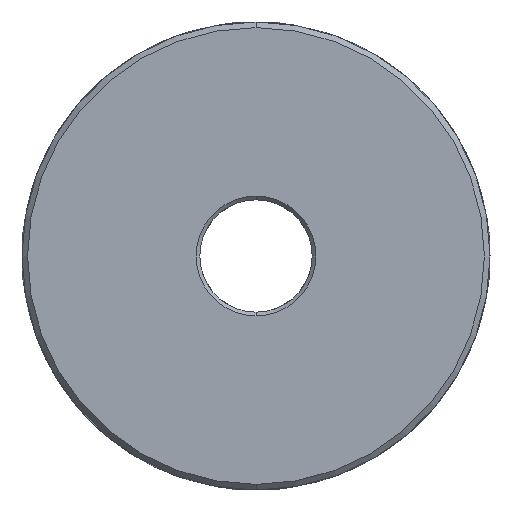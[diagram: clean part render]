
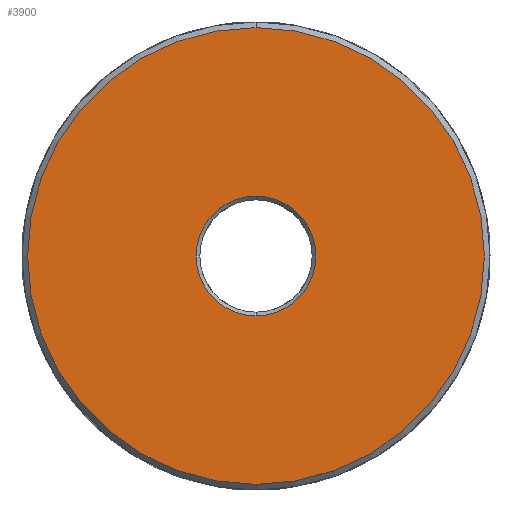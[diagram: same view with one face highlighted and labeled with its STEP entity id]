
A CAD part, front view. The second image highlights one B-rep face of the part: STEP entity #3900.
In plain terms, the highlighted planar face has unit normal (0, -1, 0).
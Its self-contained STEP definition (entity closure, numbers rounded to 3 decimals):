
#211 = CARTESIAN_POINT ( 'NONE',  ( 0., 0., -24.4 ) ) ;
#341 = EDGE_CURVE ( 'NONE', #1037, #658, #505, .T. ) ;
#427 = DIRECTION ( 'NONE',  ( 0., 1., 0. ) ) ;
#441 = DIRECTION ( 'NONE',  ( 0., 0., 1. ) ) ;
#505 = CIRCLE ( 'NONE', #4171, 6.4 ) ;
#544 = DIRECTION ( 'NONE',  ( 0., 1., 0. ) ) ;
#658 = VERTEX_POINT ( 'NONE', #831 ) ;
#831 = CARTESIAN_POINT ( 'NONE',  ( 0., 0., 6.4 ) ) ;
#1037 = VERTEX_POINT ( 'NONE', #5459 ) ;
#1040 = AXIS2_PLACEMENT_3D ( 'NONE', #7426, #1587, #441 ) ;
#1144 = DIRECTION ( 'NONE',  ( 0., 0., 1. ) ) ;
#1582 = DIRECTION ( 'NONE',  ( 0., 1., 0. ) ) ;
#1587 = DIRECTION ( 'NONE',  ( 0., -1., 0. ) ) ;
#1618 = CIRCLE ( 'NONE', #4556, 6.4 ) ;
#1812 = AXIS2_PLACEMENT_3D ( 'NONE', #5453, #4825, #3099 ) ;
#2177 = CARTESIAN_POINT ( 'NONE',  ( 0., 0., 0. ) ) ;
#2790 = ORIENTED_EDGE ( 'NONE', *, *, #6341, .T. ) ;
#2831 = CARTESIAN_POINT ( 'NONE',  ( -50., 0., 32.858 ) ) ;
#3099 = DIRECTION ( 'NONE',  ( 0., 0., 1. ) ) ;
#3481 = PLANE ( 'NONE',  #6324 ) ;
#3785 = EDGE_CURVE ( 'NONE', #5606, #5622, #5423, .T. ) ;
#3900 = ADVANCED_FACE ( 'NONE', ( #4161, #4344 ), #3481, .F. ) ;
#4161 = FACE_BOUND ( 'NONE', #4968, .T. ) ;
#4171 = AXIS2_PLACEMENT_3D ( 'NONE', #2177, #427, #6238 ) ;
#4344 = FACE_OUTER_BOUND ( 'NONE', #6713, .T. ) ;
#4556 = AXIS2_PLACEMENT_3D ( 'NONE', #7350, #1582, #6788 ) ;
#4825 = DIRECTION ( 'NONE',  ( 0., -1., 0. ) ) ;
#4968 = EDGE_LOOP ( 'NONE', ( #5048, #2790 ) ) ;
#5048 = ORIENTED_EDGE ( 'NONE', *, *, #341, .T. ) ;
#5254 = ORIENTED_EDGE ( 'NONE', *, *, #3785, .T. ) ;
#5291 = CIRCLE ( 'NONE', #1812, 24.4 ) ;
#5423 = CIRCLE ( 'NONE', #1040, 24.4 ) ;
#5453 = CARTESIAN_POINT ( 'NONE',  ( 0., 0., 0. ) ) ;
#5459 = CARTESIAN_POINT ( 'NONE',  ( 0., 0., -6.4 ) ) ;
#5606 = VERTEX_POINT ( 'NONE', #7120 ) ;
#5622 = VERTEX_POINT ( 'NONE', #211 ) ;
#6238 = DIRECTION ( 'NONE',  ( 0., 0., 1. ) ) ;
#6324 = AXIS2_PLACEMENT_3D ( 'NONE', #2831, #544, #1144 ) ;
#6341 = EDGE_CURVE ( 'NONE', #658, #1037, #1618, .T. ) ;
#6713 = EDGE_LOOP ( 'NONE', ( #5254, #7566 ) ) ;
#6788 = DIRECTION ( 'NONE',  ( 0., 0., 1. ) ) ;
#7120 = CARTESIAN_POINT ( 'NONE',  ( 0., 0., 24.4 ) ) ;
#7350 = CARTESIAN_POINT ( 'NONE',  ( 0., 0., 0. ) ) ;
#7426 = CARTESIAN_POINT ( 'NONE',  ( 0., 0., 0. ) ) ;
#7520 = EDGE_CURVE ( 'NONE', #5622, #5606, #5291, .T. ) ;
#7566 = ORIENTED_EDGE ( 'NONE', *, *, #7520, .T. ) ;
